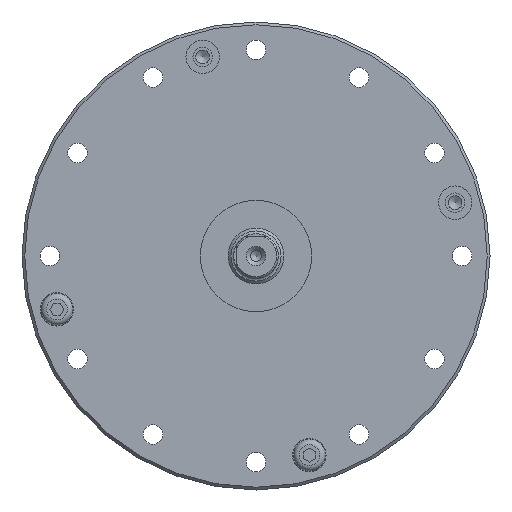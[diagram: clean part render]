
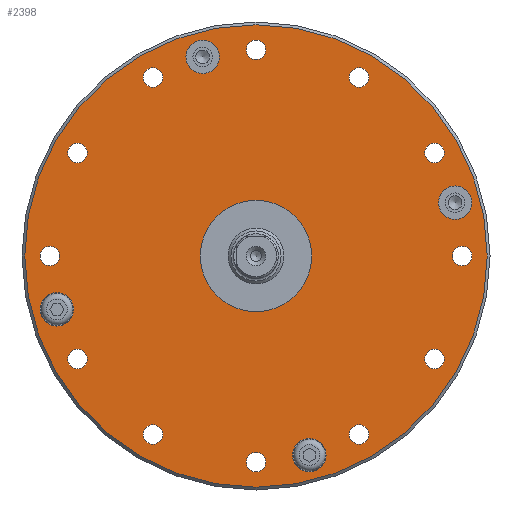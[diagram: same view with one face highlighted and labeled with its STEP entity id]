
A CAD part, front view. The second image highlights one B-rep face of the part: STEP entity #2398.
In plain terms, the highlighted planar face has unit normal (0, -1, 0).
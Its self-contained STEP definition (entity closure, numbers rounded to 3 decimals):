
#1016=PLANE('',#11049);
#1351=FACE_OUTER_BOUND('',#4898,.T.);
#2398=ADVANCED_FACE('',(#3611,#3612,#3613,#3614,#3615,#3616,#3617,#3618,
#3619,#3620,#3621,#3622,#3623,#3624,#3625,#3626,#1351,#3627),#1016,.F.);
#3611=FACE_BOUND('',#4882,.T.);
#3612=FACE_BOUND('',#4883,.T.);
#3613=FACE_BOUND('',#4884,.T.);
#3614=FACE_BOUND('',#4885,.T.);
#3615=FACE_BOUND('',#4886,.T.);
#3616=FACE_BOUND('',#4887,.T.);
#3617=FACE_BOUND('',#4888,.T.);
#3618=FACE_BOUND('',#4889,.T.);
#3619=FACE_BOUND('',#4890,.T.);
#3620=FACE_BOUND('',#4891,.T.);
#3621=FACE_BOUND('',#4892,.T.);
#3622=FACE_BOUND('',#4893,.T.);
#3623=FACE_BOUND('',#4894,.T.);
#3624=FACE_BOUND('',#4895,.T.);
#3625=FACE_BOUND('',#4896,.T.);
#3626=FACE_BOUND('',#4897,.T.);
#3627=FACE_BOUND('',#4899,.T.);
#4882=EDGE_LOOP('',(#6880));
#4883=EDGE_LOOP('',(#6881));
#4884=EDGE_LOOP('',(#6882));
#4885=EDGE_LOOP('',(#6883));
#4886=EDGE_LOOP('',(#6884));
#4887=EDGE_LOOP('',(#6885));
#4888=EDGE_LOOP('',(#6886));
#4889=EDGE_LOOP('',(#6887));
#4890=EDGE_LOOP('',(#6888));
#4891=EDGE_LOOP('',(#6889));
#4892=EDGE_LOOP('',(#6890));
#4893=EDGE_LOOP('',(#6891));
#4894=EDGE_LOOP('',(#6892));
#4895=EDGE_LOOP('',(#6893));
#4896=EDGE_LOOP('',(#6894));
#4897=EDGE_LOOP('',(#6895));
#4898=EDGE_LOOP('',(#6896));
#4899=EDGE_LOOP('',(#6897));
#6880=ORIENTED_EDGE('',*,*,#8864,.T.);
#6881=ORIENTED_EDGE('',*,*,#8868,.T.);
#6882=ORIENTED_EDGE('',*,*,#8872,.T.);
#6883=ORIENTED_EDGE('',*,*,#8874,.T.);
#6884=ORIENTED_EDGE('',*,*,#8876,.T.);
#6885=ORIENTED_EDGE('',*,*,#8878,.T.);
#6886=ORIENTED_EDGE('',*,*,#8880,.T.);
#6887=ORIENTED_EDGE('',*,*,#8882,.T.);
#6888=ORIENTED_EDGE('',*,*,#8884,.T.);
#6889=ORIENTED_EDGE('',*,*,#8886,.T.);
#6890=ORIENTED_EDGE('',*,*,#8888,.T.);
#6891=ORIENTED_EDGE('',*,*,#8890,.T.);
#6892=ORIENTED_EDGE('',*,*,#8892,.T.);
#6893=ORIENTED_EDGE('',*,*,#8894,.T.);
#6894=ORIENTED_EDGE('',*,*,#8911,.T.);
#6895=ORIENTED_EDGE('',*,*,#8912,.T.);
#6896=ORIENTED_EDGE('',*,*,#8913,.T.);
#6897=ORIENTED_EDGE('',*,*,#8914,.T.);
#7862=VERTEX_POINT('',#16530);
#7866=VERTEX_POINT('',#16541);
#7870=VERTEX_POINT('',#16552);
#7872=VERTEX_POINT('',#16558);
#7874=VERTEX_POINT('',#16563);
#7876=VERTEX_POINT('',#16568);
#7878=VERTEX_POINT('',#16573);
#7880=VERTEX_POINT('',#16578);
#7882=VERTEX_POINT('',#16583);
#7884=VERTEX_POINT('',#16588);
#7886=VERTEX_POINT('',#16593);
#7888=VERTEX_POINT('',#16598);
#7890=VERTEX_POINT('',#16603);
#7892=VERTEX_POINT('',#16608);
#7909=VERTEX_POINT('',#16650);
#7910=VERTEX_POINT('',#16652);
#7911=VERTEX_POINT('',#16654);
#7912=VERTEX_POINT('',#16656);
#8864=EDGE_CURVE('',#7862,#7862,#9642,.T.);
#8868=EDGE_CURVE('',#7866,#7866,#9646,.T.);
#8872=EDGE_CURVE('',#7870,#7870,#9650,.T.);
#8874=EDGE_CURVE('',#7872,#7872,#9652,.T.);
#8876=EDGE_CURVE('',#7874,#7874,#9654,.T.);
#8878=EDGE_CURVE('',#7876,#7876,#9656,.T.);
#8880=EDGE_CURVE('',#7878,#7878,#9658,.T.);
#8882=EDGE_CURVE('',#7880,#7880,#9660,.T.);
#8884=EDGE_CURVE('',#7882,#7882,#9662,.T.);
#8886=EDGE_CURVE('',#7884,#7884,#9664,.T.);
#8888=EDGE_CURVE('',#7886,#7886,#9666,.T.);
#8890=EDGE_CURVE('',#7888,#7888,#9668,.T.);
#8892=EDGE_CURVE('',#7890,#7890,#9670,.T.);
#8894=EDGE_CURVE('',#7892,#7892,#9672,.T.);
#8911=EDGE_CURVE('',#7909,#7909,#9689,.T.);
#8912=EDGE_CURVE('',#7910,#7910,#9690,.T.);
#8913=EDGE_CURVE('',#7911,#7911,#9691,.T.);
#8914=EDGE_CURVE('',#7912,#7912,#9692,.T.);
#9642=CIRCLE('',#10972,3.);
#9646=CIRCLE('',#10979,3.);
#9650=CIRCLE('',#10986,3.);
#9652=CIRCLE('',#10990,1.75);
#9654=CIRCLE('',#10993,1.75);
#9656=CIRCLE('',#10996,1.75);
#9658=CIRCLE('',#10999,1.75);
#9660=CIRCLE('',#11002,1.75);
#9662=CIRCLE('',#11005,1.75);
#9664=CIRCLE('',#11008,1.75);
#9666=CIRCLE('',#11011,1.75);
#9668=CIRCLE('',#11014,1.75);
#9670=CIRCLE('',#11017,1.75);
#9672=CIRCLE('',#11020,1.75);
#9689=CIRCLE('',#11045,3.);
#9690=CIRCLE('',#11046,1.75);
#9691=CIRCLE('',#11047,41.5);
#9692=CIRCLE('',#11048,10.);
#10972=AXIS2_PLACEMENT_3D('',#16529,#13819,#13820);
#10979=AXIS2_PLACEMENT_3D('',#16540,#13833,#13834);
#10986=AXIS2_PLACEMENT_3D('',#16551,#13847,#13848);
#10990=AXIS2_PLACEMENT_3D('',#16557,#13855,#13856);
#10993=AXIS2_PLACEMENT_3D('',#16562,#13861,#13862);
#10996=AXIS2_PLACEMENT_3D('',#16567,#13867,#13868);
#10999=AXIS2_PLACEMENT_3D('',#16572,#13873,#13874);
#11002=AXIS2_PLACEMENT_3D('',#16577,#13879,#13880);
#11005=AXIS2_PLACEMENT_3D('',#16582,#13885,#13886);
#11008=AXIS2_PLACEMENT_3D('',#16587,#13891,#13892);
#11011=AXIS2_PLACEMENT_3D('',#16592,#13897,#13898);
#11014=AXIS2_PLACEMENT_3D('',#16597,#13903,#13904);
#11017=AXIS2_PLACEMENT_3D('',#16602,#13909,#13910);
#11020=AXIS2_PLACEMENT_3D('',#16607,#13915,#13916);
#11045=AXIS2_PLACEMENT_3D('',#16649,#13965,#13966);
#11046=AXIS2_PLACEMENT_3D('',#16651,#13967,#13968);
#11047=AXIS2_PLACEMENT_3D('',#16653,#13969,#13970);
#11048=AXIS2_PLACEMENT_3D('',#16655,#13971,#13972);
#11049=AXIS2_PLACEMENT_3D('',#16657,#13973,#13974);
#13819=DIRECTION('',(0.,1.,0.));
#13820=DIRECTION('',(1.,0.,0.));
#13833=DIRECTION('',(0.,1.,0.));
#13834=DIRECTION('',(0.,0.,-1.));
#13847=DIRECTION('',(0.,1.,0.));
#13848=DIRECTION('',(-1.,0.,0.));
#13855=DIRECTION('',(0.,1.,0.));
#13856=DIRECTION('',(0.5,0.,0.866));
#13861=DIRECTION('',(0.,1.,0.));
#13862=DIRECTION('',(0.866,0.,0.5));
#13867=DIRECTION('',(0.,1.,0.));
#13868=DIRECTION('',(1.,0.,0.));
#13873=DIRECTION('',(0.,1.,0.));
#13874=DIRECTION('',(0.866,0.,-0.5));
#13879=DIRECTION('',(0.,1.,0.));
#13880=DIRECTION('',(0.5,0.,-0.866));
#13885=DIRECTION('',(0.,1.,0.));
#13886=DIRECTION('',(0.,0.,-1.));
#13891=DIRECTION('',(0.,1.,0.));
#13892=DIRECTION('',(-0.5,0.,-0.866));
#13897=DIRECTION('',(0.,1.,0.));
#13898=DIRECTION('',(-0.866,0.,-0.5));
#13903=DIRECTION('',(0.,1.,0.));
#13904=DIRECTION('',(-1.,0.,0.));
#13909=DIRECTION('',(0.,1.,0.));
#13910=DIRECTION('',(-0.866,0.,0.5));
#13915=DIRECTION('',(0.,1.,0.));
#13916=DIRECTION('',(-0.5,0.,0.866));
#13965=DIRECTION('',(0.,1.,0.));
#13966=DIRECTION('',(0.,0.,1.));
#13967=DIRECTION('',(0.,1.,0.));
#13968=DIRECTION('',(0.,0.,1.));
#13969=DIRECTION('',(0.,-1.,0.));
#13970=DIRECTION('',(0.,0.,1.));
#13971=DIRECTION('',(0.,1.,0.));
#13972=DIRECTION('',(0.,0.,1.));
#13973=DIRECTION('',(0.,1.,0.));
#13974=DIRECTION('',(0.,0.,1.));
#16529=CARTESIAN_POINT('',(9.576,-30.5,-35.739));
#16530=CARTESIAN_POINT('',(12.576,-30.5,-35.739));
#16540=CARTESIAN_POINT('',(-35.739,-30.5,-9.576));
#16541=CARTESIAN_POINT('',(-35.739,-30.5,-12.576));
#16551=CARTESIAN_POINT('',(-9.576,-30.5,35.739));
#16552=CARTESIAN_POINT('',(-12.576,-30.5,35.739));
#16557=CARTESIAN_POINT('',(32.043,-30.5,-18.5));
#16558=CARTESIAN_POINT('',(32.918,-30.5,-16.984));
#16562=CARTESIAN_POINT('',(18.5,-30.5,-32.043));
#16563=CARTESIAN_POINT('',(20.016,-30.5,-31.168));
#16567=CARTESIAN_POINT('',(0.,-30.5,-37.));
#16568=CARTESIAN_POINT('',(1.75,-30.5,-37.));
#16572=CARTESIAN_POINT('',(-18.5,-30.5,-32.043));
#16573=CARTESIAN_POINT('',(-16.984,-30.5,-32.918));
#16577=CARTESIAN_POINT('',(-32.043,-30.5,-18.5));
#16578=CARTESIAN_POINT('',(-31.168,-30.5,-20.016));
#16582=CARTESIAN_POINT('',(-37.,-30.5,0.));
#16583=CARTESIAN_POINT('',(-37.,-30.5,-1.75));
#16587=CARTESIAN_POINT('',(-32.043,-30.5,18.5));
#16588=CARTESIAN_POINT('',(-32.918,-30.5,16.984));
#16592=CARTESIAN_POINT('',(-18.5,-30.5,32.043));
#16593=CARTESIAN_POINT('',(-20.016,-30.5,31.168));
#16597=CARTESIAN_POINT('',(0.,-30.5,37.));
#16598=CARTESIAN_POINT('',(-1.75,-30.5,37.));
#16602=CARTESIAN_POINT('',(18.5,-30.5,32.043));
#16603=CARTESIAN_POINT('',(16.984,-30.5,32.918));
#16607=CARTESIAN_POINT('',(32.043,-30.5,18.5));
#16608=CARTESIAN_POINT('',(31.168,-30.5,20.016));
#16649=CARTESIAN_POINT('',(35.739,-30.5,9.576));
#16650=CARTESIAN_POINT('',(35.739,-30.5,12.576));
#16651=CARTESIAN_POINT('',(37.,-30.5,0.));
#16652=CARTESIAN_POINT('',(37.,-30.5,1.75));
#16653=CARTESIAN_POINT('',(0.,-30.5,0.));
#16654=CARTESIAN_POINT('',(0.,-30.5,41.5));
#16655=CARTESIAN_POINT('',(0.,-30.5,0.));
#16656=CARTESIAN_POINT('',(0.,-30.5,10.));
#16657=CARTESIAN_POINT('',(-42.,-30.5,0.));
